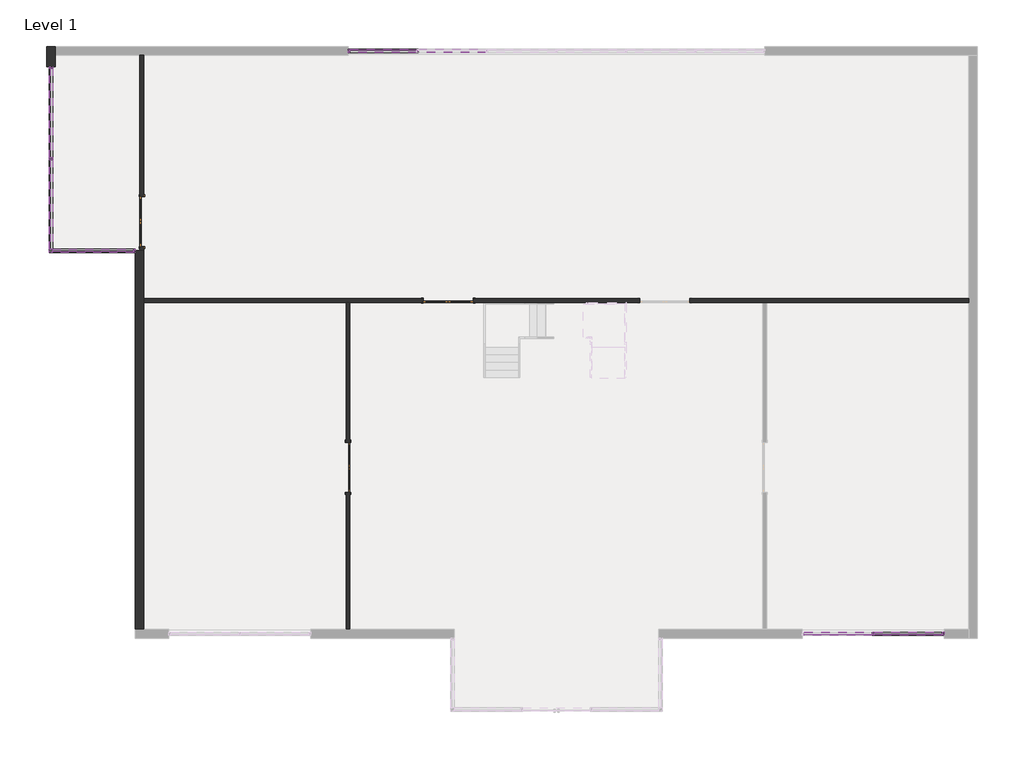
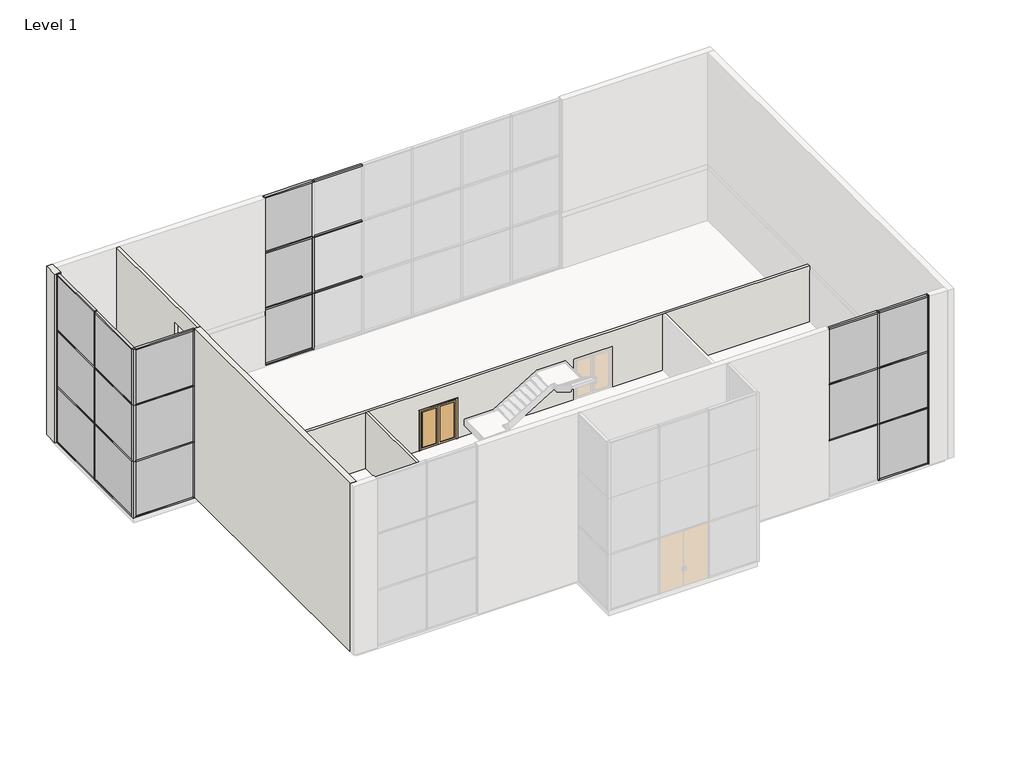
# One storey, part 2 of 3: 49 members, 17 plates, 5 walls, 3 doors.
"""IFC4 building model written with IfcOpenShell, lengths in millimetres."""

from ifc_helpers import new_model, si_unit, frame, origin, place, context, project, spatial, polyline, outline, extrude, faceted_brep, transform, mapped, element, save
from components import door_cb31edf2, door_3f2f997e, member_092dde94, member_3f395ae9, member_65a3e7b2, member_eaba9652, member_4955b6a0, member_9c76a069, member_1f84ea9c, member_b6766b59, member_5ef46571, member_2d82c926, member_728bf22d, member_0c17b8a1, member_268c476f, system_panel_glazed_e83c8d5a, system_panel_glazed_f5e36016, system_panel_glazed_54eba105, system_panel_glazed_2b873caf, system_panel_glazed_c65d631f, system_panel_glazed_26911bd7, system_panel_glazed_bd540f61, system_panel_glazed_3bf1a00e

model = new_model("IFC4")

# Units and contexts
model_context = context("Model", 3, world=origin())
ifc_project = project(units=[si_unit("LENGTHUNIT", "METRE", prefix="MILLI")], contexts=[model_context])

# Site, building, storey
site = spatial("IfcSite", under=ifc_project)
building = spatial("IfcBuilding", under=site)
storey = spatial("IfcBuildingStorey", under=building, Name="Level 1", Elevation=0.0)

# Doors
placement = place(None, origin())
door_shape = door_cb31edf2(model_context)
element("IfcDoor", 1, ObjectType="Door-Double-Glass : 72\" x 84\"", at=placement, inside=storey, context=model_context, shape_type="MappedRepresentation", body=[
    mapped(door_shape, transform((-18248.748632, 9505.1983604, 0.0), x_axis=(0.0, 1.0, 0.0), y_axis=(-1.0, 0.0, 0.0), z_axis=(0.0, 0.0, 1.0))),
])
door_2_shape = door_3f2f997e(model_context)
element("IfcDoor", 2, ObjectType="Door-Double-Glass : 72\" x 84\"", at=placement, inside=storey, context=model_context, shape_type="MappedRepresentation", body=[
    mapped(door_2_shape, transform((-10711.298632, 513.5983604, 0.0), x_axis=(0.0, -1.0, 0.0), y_axis=(1.0, 0.0, 0.0), z_axis=(0.0, 0.0, 1.0))),
])
element("IfcDoor", 3, ObjectType="Door-Double-Glass : 72\" x 84\"", at=placement, inside=storey, context=model_context, shape_type="MappedRepresentation", body=[
    mapped(door_2_shape, transform((-7051.317382, 6611.9796104, 0.0), x_axis=(-1.0, 0.0, 0.0), y_axis=(0.0, -1.0, 0.0), z_axis=(0.0, 0.0, 1.0))),
])

# Members
member_shape = member_092dde94(model_context)
element("IfcMember", 4, ObjectType="Quad Corner Mullion : 5\" x 5\" Quad Corner", at=placement, inside=storey, context=model_context, shape_type="MappedRepresentation", body=[
    mapped(member_shape, transform((-21580.117382, 8438.3983604, 0.0), x_axis=(-1.0, 0.0, 0.0), y_axis=(0.0, 1.0, 0.0), z_axis=(0.0, 0.0, -1.0))),
])
element("IfcMember", 5, ObjectType="Quad Corner Mullion : 5\" x 5\" Quad Corner", at=placement, inside=storey, context=model_context, shape_type="MappedRepresentation", body=[
    mapped(member_shape, transform((-21580.117382, 8438.3983604, 3048.0), x_axis=(-1.0, 0.0, 0.0), y_axis=(0.0, 1.0, 0.0), z_axis=(0.0, 0.0, -1.0))),
])
element("IfcMember", 6, ObjectType="Quad Corner Mullion : 5\" x 5\" Quad Corner", at=placement, inside=storey, context=model_context, shape_type="MappedRepresentation", body=[
    mapped(member_shape, transform((-21580.117382, 8438.3983604, 6096.0), x_axis=(-1.0, 0.0, 0.0), y_axis=(0.0, 1.0, 0.0), z_axis=(0.0, 0.0, -1.0))),
])
member_2_shape = member_3f395ae9(model_context)
element("IfcMember", 7, ObjectType="Rectangular Mullion : 2.5\" x 5\" rectangular", at=placement, inside=storey, context=model_context, shape_type="MappedRepresentation", body=[
    mapped(member_2_shape, transform((-18484.492382, 8438.3983604, 9144.0), x_axis=(1.0, 0.0, 0.0), y_axis=(0.0, 1.0, 0.0), z_axis=(0.0, 0.0, 1.0))),
])
element("IfcMember", 8, ObjectType="Rectangular Mullion : 2.5\" x 5\" rectangular", at=placement, inside=storey, context=model_context, shape_type="MappedRepresentation", body=[
    mapped(member_2_shape, transform((-18484.492382, 8438.3983604, 3048.0), x_axis=(1.0, 0.0, 0.0), y_axis=(0.0, 1.0, 0.0), z_axis=(0.0, 0.0, 1.0))),
])
member_3_shape = member_65a3e7b2(model_context)
element("IfcMember", 9, ObjectType="Rectangular Mullion : 2.5\" x 5\" rectangular", at=placement, inside=storey, context=model_context, shape_type="MappedRepresentation", body=[
    mapped(member_3_shape, transform((-10645.417382, 15753.5983604, 9144.0), x_axis=(0.0, 0.0, 1.0), y_axis=(0.0, 1.0, 0.0), z_axis=(-1.0, 0.0, 0.0))),
])
element("IfcMember", 10, ObjectType="Rectangular Mullion : 2.5\" x 5\" rectangular", at=placement, inside=storey, context=model_context, shape_type="MappedRepresentation", body=[
    mapped(member_3_shape, transform((-8200.6673818, 15753.5983604, 0.0), x_axis=(0.0, 0.0, -1.0), y_axis=(0.0, 1.0, 0.0), z_axis=(1.0, 0.0, 0.0))),
])
member_4_shape = member_eaba9652(model_context)
element("IfcMember", 11, ObjectType="Rectangular Mullion : 2.5\" x 5\" rectangular", at=placement, inside=storey, context=model_context, shape_type="MappedRepresentation", body=[
    mapped(member_4_shape, transform((-8168.9173818, 15753.5983604, 0.0), x_axis=(-1.0, 0.0, 0.0), y_axis=(0.0, 1.0, 0.0), z_axis=(0.0, 0.0, -1.0))),
])
element("IfcMember", 12, ObjectType="Rectangular Mullion : 2.5\" x 5\" rectangular", at=placement, inside=storey, context=model_context, shape_type="MappedRepresentation", body=[
    mapped(member_4_shape, transform((8493.482618, -5582.4016396, 0.0), x_axis=(1.0, 0.0, 0.0), y_axis=(0.0, -1.0, 0.0), z_axis=(0.0, 0.0, -1.0))),
])
element("IfcMember", 13, ObjectType="Rectangular Mullion : 2.5\" x 5\" rectangular", at=placement, inside=storey, context=model_context, shape_type="MappedRepresentation", body=[
    mapped(member_4_shape, transform((-21580.117382, 11807.0733604, 0.0), x_axis=(0.0, -1.0, 0.0), y_axis=(-1.0, 0.0, 0.0), z_axis=(0.0, 0.0, -1.0))),
])
member_5_shape = member_4955b6a0(model_context)
element("IfcMember", 14, ObjectType="Rectangular Mullion : 2.5\" x 5\" rectangular", at=placement, inside=storey, context=model_context, shape_type="MappedRepresentation", body=[
    mapped(member_5_shape, transform((-10645.417382, 15753.5983604, 3048.0), x_axis=(0.0, 0.0, 1.0), y_axis=(0.0, 1.0, 0.0), z_axis=(-1.0, 0.0, 0.0))),
])
element("IfcMember", 15, ObjectType="Rectangular Mullion : 2.5\" x 5\" rectangular", at=placement, inside=storey, context=model_context, shape_type="MappedRepresentation", body=[
    mapped(member_5_shape, transform((-10645.417382, 15753.5983604, 6096.0), x_axis=(0.0, 0.0, 1.0), y_axis=(0.0, 1.0, 0.0), z_axis=(-1.0, 0.0, 0.0))),
])
member_6_shape = member_9c76a069(model_context)
element("IfcMember", 16, ObjectType="Rectangular Mullion : 2.5\" x 5\" rectangular", at=placement, inside=storey, context=model_context, shape_type="MappedRepresentation", body=[
    mapped(member_6_shape, transform((-8137.1673818, 15753.5983604, 3048.0), x_axis=(0.0, 0.0, 1.0), y_axis=(0.0, 1.0, 0.0), z_axis=(-1.0, 0.0, 0.0))),
])
element("IfcMember", 17, ObjectType="Rectangular Mullion : 2.5\" x 5\" rectangular", at=placement, inside=storey, context=model_context, shape_type="MappedRepresentation", body=[
    mapped(member_6_shape, transform((-8137.1673818, 15753.5983604, 6096.0), x_axis=(0.0, 0.0, 1.0), y_axis=(0.0, 1.0, 0.0), z_axis=(-1.0, 0.0, 0.0))),
])
member_7_shape = member_1f84ea9c(model_context)
element("IfcMember", 18, ObjectType="Rectangular Mullion : 2.5\" x 5\" rectangular", at=placement, inside=storey, context=model_context, shape_type="MappedRepresentation", body=[
    mapped(member_7_shape, transform((-8137.1673818, 15753.5983604, 9144.0), x_axis=(0.0, 0.0, 1.0), y_axis=(0.0, 1.0, 0.0), z_axis=(-1.0, 0.0, 0.0))),
])
element("IfcMember", 19, ObjectType="Rectangular Mullion : 2.5\" x 5\" rectangular", at=placement, inside=storey, context=model_context, shape_type="MappedRepresentation", body=[
    mapped(member_4_shape, transform((-8168.9173818, 15753.5983604, 3048.0), x_axis=(-1.0, 0.0, 0.0), y_axis=(0.0, 1.0, 0.0), z_axis=(0.0, 0.0, -1.0))),
])
element("IfcMember", 20, ObjectType="Rectangular Mullion : 2.5\" x 5\" rectangular", at=placement, inside=storey, context=model_context, shape_type="MappedRepresentation", body=[
    mapped(member_4_shape, transform((8493.482618, -5582.4016396, 3048.0), x_axis=(1.0, 0.0, 0.0), y_axis=(0.0, -1.0, 0.0), z_axis=(0.0, 0.0, -1.0))),
])
element("IfcMember", 21, ObjectType="Rectangular Mullion : 2.5\" x 5\" rectangular", at=placement, inside=storey, context=model_context, shape_type="MappedRepresentation", body=[
    mapped(member_4_shape, transform((-21580.117382, 11807.0733604, 3048.0), x_axis=(0.0, -1.0, 0.0), y_axis=(-1.0, 0.0, 0.0), z_axis=(0.0, 0.0, -1.0))),
])
element("IfcMember", 22, ObjectType="Rectangular Mullion : 2.5\" x 5\" rectangular", at=placement, inside=storey, context=model_context, shape_type="MappedRepresentation", body=[
    mapped(member_4_shape, transform((8493.482618, -5582.4016396, 6096.0), x_axis=(1.0, 0.0, 0.0), y_axis=(0.0, -1.0, 0.0), z_axis=(0.0, 0.0, -1.0))),
])
element("IfcMember", 23, ObjectType="Rectangular Mullion : 2.5\" x 5\" rectangular", at=placement, inside=storey, context=model_context, shape_type="MappedRepresentation", body=[
    mapped(member_4_shape, transform((-21580.117382, 11807.0733604, 6096.0), x_axis=(0.0, -1.0, 0.0), y_axis=(-1.0, 0.0, 0.0), z_axis=(0.0, 0.0, -1.0))),
])
element("IfcMember", 24, ObjectType="Rectangular Mullion : 2.5\" x 5\" rectangular", at=placement, inside=storey, context=model_context, shape_type="MappedRepresentation", body=[
    mapped(member_2_shape, transform((-21580.117382, 15175.7483604, 9144.0), x_axis=(0.0, 1.0, 0.0), y_axis=(-1.0, 0.0, 0.0), z_axis=(0.0, 0.0, 1.0))),
])
element("IfcMember", 25, ObjectType="Rectangular Mullion : 2.5\" x 5\" rectangular", at=placement, inside=storey, context=model_context, shape_type="MappedRepresentation", body=[
    mapped(member_2_shape, transform((-10708.917382, 15753.5983604, 0.0), x_axis=(-1.0, 0.0, 0.0), y_axis=(0.0, 1.0, 0.0), z_axis=(0.0, 0.0, -1.0))),
])
element("IfcMember", 26, ObjectType="Rectangular Mullion : 2.5\" x 5\" rectangular", at=placement, inside=storey, context=model_context, shape_type="MappedRepresentation", body=[
    mapped(member_2_shape, transform((11084.282618, -5582.4016396, 0.0), x_axis=(1.0, 0.0, 0.0), y_axis=(0.0, -1.0, 0.0), z_axis=(0.0, 0.0, -1.0))),
])
element("IfcMember", 27, ObjectType="Rectangular Mullion : 2.5\" x 5\" rectangular", at=placement, inside=storey, context=model_context, shape_type="MappedRepresentation", body=[
    mapped(member_2_shape, transform((-10708.917382, 15753.5983604, 3048.0), x_axis=(-1.0, 0.0, 0.0), y_axis=(0.0, 1.0, 0.0), z_axis=(0.0, 0.0, -1.0))),
])
element("IfcMember", 28, ObjectType="Rectangular Mullion : 2.5\" x 5\" rectangular", at=placement, inside=storey, context=model_context, shape_type="MappedRepresentation", body=[
    mapped(member_2_shape, transform((11084.282618, -5582.4016396, 3048.0), x_axis=(1.0, 0.0, 0.0), y_axis=(0.0, -1.0, 0.0), z_axis=(0.0, 0.0, -1.0))),
])
element("IfcMember", 29, ObjectType="Rectangular Mullion : 2.5\" x 5\" rectangular", at=placement, inside=storey, context=model_context, shape_type="MappedRepresentation", body=[
    mapped(member_2_shape, transform((-10708.917382, 15753.5983604, 6096.0), x_axis=(-1.0, 0.0, 0.0), y_axis=(0.0, 1.0, 0.0), z_axis=(0.0, 0.0, -1.0))),
])
element("IfcMember", 30, ObjectType="Rectangular Mullion : 2.5\" x 5\" rectangular", at=placement, inside=storey, context=model_context, shape_type="MappedRepresentation", body=[
    mapped(member_2_shape, transform((11084.282618, -5582.4016396, 6096.0), x_axis=(1.0, 0.0, 0.0), y_axis=(0.0, -1.0, 0.0), z_axis=(0.0, 0.0, -1.0))),
])
element("IfcMember", 31, ObjectType="Rectangular Mullion : 2.5\" x 5\" rectangular", at=placement, inside=storey, context=model_context, shape_type="MappedRepresentation", body=[
    mapped(member_2_shape, transform((-21580.117382, 15175.7483604, 3048.0), x_axis=(0.0, 1.0, 0.0), y_axis=(-1.0, 0.0, 0.0), z_axis=(0.0, 0.0, 1.0))),
])
element("IfcMember", 32, ObjectType="Rectangular Mullion : 2.5\" x 5\" rectangular", at=placement, inside=storey, context=model_context, shape_type="MappedRepresentation", body=[
    mapped(member_2_shape, transform((-21580.117382, 15175.7483604, 6096.0), x_axis=(0.0, 1.0, 0.0), y_axis=(-1.0, 0.0, 0.0), z_axis=(0.0, 0.0, 1.0))),
])
element("IfcMember", 33, ObjectType="Rectangular Mullion : 2.5\" x 5\" rectangular", at=placement, inside=storey, context=model_context, shape_type="MappedRepresentation", body=[
    mapped(member_2_shape, transform((-18484.492382, 8438.3983604, 6096.0), x_axis=(1.0, 0.0, 0.0), y_axis=(0.0, 1.0, 0.0), z_axis=(0.0, 0.0, 1.0))),
])
member_8_shape = member_b6766b59(model_context)
element("IfcMember", 34, ObjectType="Rectangular Mullion : 2.5\" x 5\" rectangular", at=placement, inside=storey, context=model_context, shape_type="MappedRepresentation", body=[
    mapped(member_8_shape, transform((11020.782618, -5582.4016396, 9144.0), x_axis=(0.0, 0.0, 1.0), y_axis=(0.0, -1.0, 0.0), z_axis=(1.0, 0.0, 0.0))),
])
element("IfcMember", 35, ObjectType="Rectangular Mullion : 2.5\" x 5\" rectangular", at=placement, inside=storey, context=model_context, shape_type="MappedRepresentation", body=[
    mapped(member_8_shape, transform((8461.732618, -5582.4016396, 9144.0), x_axis=(0.0, 0.0, 1.0), y_axis=(0.0, -1.0, 0.0), z_axis=(1.0, 0.0, 0.0))),
])
element("IfcMember", 36, ObjectType="Rectangular Mullion : 2.5\" x 5\" rectangular", at=placement, inside=storey, context=model_context, shape_type="MappedRepresentation", body=[
    mapped(member_8_shape, transform((8525.232618, -5582.4016396, 0.0), x_axis=(0.0, 0.0, -1.0), y_axis=(0.0, -1.0, 0.0), z_axis=(-1.0, 0.0, 0.0))),
])
member_9_shape = member_5ef46571(model_context)
element("IfcMember", 37, ObjectType="Rectangular Mullion : 2.5\" x 5\" rectangular", at=placement, inside=storey, context=model_context, shape_type="MappedRepresentation", body=[
    mapped(member_9_shape, transform((8461.732618, -5582.4016396, 3048.0), x_axis=(0.0, 0.0, 1.0), y_axis=(0.0, -1.0, 0.0), z_axis=(1.0, 0.0, 0.0))),
])
element("IfcMember", 38, ObjectType="Rectangular Mullion : 2.5\" x 5\" rectangular", at=placement, inside=storey, context=model_context, shape_type="MappedRepresentation", body=[
    mapped(member_9_shape, transform((11020.782618, -5582.4016396, 3048.0), x_axis=(0.0, 0.0, 1.0), y_axis=(0.0, -1.0, 0.0), z_axis=(1.0, 0.0, 0.0))),
])
element("IfcMember", 39, ObjectType="Rectangular Mullion : 2.5\" x 5\" rectangular", at=placement, inside=storey, context=model_context, shape_type="MappedRepresentation", body=[
    mapped(member_9_shape, transform((8461.732618, -5582.4016396, 6096.0), x_axis=(0.0, 0.0, 1.0), y_axis=(0.0, -1.0, 0.0), z_axis=(1.0, 0.0, 0.0))),
])
element("IfcMember", 40, ObjectType="Rectangular Mullion : 2.5\" x 5\" rectangular", at=placement, inside=storey, context=model_context, shape_type="MappedRepresentation", body=[
    mapped(member_9_shape, transform((11020.782618, -5582.4016396, 6096.0), x_axis=(0.0, 0.0, 1.0), y_axis=(0.0, -1.0, 0.0), z_axis=(1.0, 0.0, 0.0))),
])
member_10_shape = member_2d82c926(model_context)
element("IfcMember", 41, ObjectType="Rectangular Mullion : 2.5\" x 5\" rectangular", at=placement, inside=storey, context=model_context, shape_type="MappedRepresentation", body=[
    mapped(member_10_shape, transform((-21580.117382, 8501.8983604, 9144.0), x_axis=(0.0, 0.0, 1.0), y_axis=(-1.0, 0.0, 0.0), z_axis=(0.0, -1.0, 0.0))),
])
element("IfcMember", 42, ObjectType="Rectangular Mullion : 2.5\" x 5\" rectangular", at=placement, inside=storey, context=model_context, shape_type="MappedRepresentation", body=[
    mapped(member_10_shape, transform((-21580.117382, 11838.8233604, 9144.0), x_axis=(0.0, 0.0, 1.0), y_axis=(-1.0, 0.0, 0.0), z_axis=(0.0, -1.0, 0.0))),
])
element("IfcMember", 43, ObjectType="Rectangular Mullion : 2.5\" x 5\" rectangular", at=placement, inside=storey, context=model_context, shape_type="MappedRepresentation", body=[
    mapped(member_10_shape, transform((-21580.117382, 15112.2483604, 0.0), x_axis=(0.0, 0.0, -1.0), y_axis=(-1.0, 0.0, 0.0), z_axis=(0.0, 1.0, 0.0))),
])
element("IfcMember", 44, ObjectType="Rectangular Mullion : 2.5\" x 5\" rectangular", at=placement, inside=storey, context=model_context, shape_type="MappedRepresentation", body=[
    mapped(member_10_shape, transform((-21580.117382, 11775.3233604, 0.0), x_axis=(0.0, 0.0, -1.0), y_axis=(-1.0, 0.0, 0.0), z_axis=(0.0, 1.0, 0.0))),
])
member_11_shape = member_728bf22d(model_context)
element("IfcMember", 45, ObjectType="Rectangular Mullion : 2.5\" x 5\" rectangular", at=placement, inside=storey, context=model_context, shape_type="MappedRepresentation", body=[
    mapped(member_11_shape, transform((-21580.117382, 11838.8233604, 3048.0), x_axis=(0.0, 0.0, 1.0), y_axis=(-1.0, 0.0, 0.0), z_axis=(0.0, -1.0, 0.0))),
])
element("IfcMember", 46, ObjectType="Rectangular Mullion : 2.5\" x 5\" rectangular", at=placement, inside=storey, context=model_context, shape_type="MappedRepresentation", body=[
    mapped(member_11_shape, transform((-21580.117382, 8501.8983604, 3048.0), x_axis=(0.0, 0.0, 1.0), y_axis=(-1.0, 0.0, 0.0), z_axis=(0.0, -1.0, 0.0))),
])
element("IfcMember", 47, ObjectType="Rectangular Mullion : 2.5\" x 5\" rectangular", at=placement, inside=storey, context=model_context, shape_type="MappedRepresentation", body=[
    mapped(member_11_shape, transform((-21580.117382, 11838.8233604, 6096.0), x_axis=(0.0, 0.0, 1.0), y_axis=(-1.0, 0.0, 0.0), z_axis=(0.0, -1.0, 0.0))),
])
element("IfcMember", 48, ObjectType="Rectangular Mullion : 2.5\" x 5\" rectangular", at=placement, inside=storey, context=model_context, shape_type="MappedRepresentation", body=[
    mapped(member_11_shape, transform((-21580.117382, 8501.8983604, 6096.0), x_axis=(0.0, 0.0, 1.0), y_axis=(-1.0, 0.0, 0.0), z_axis=(0.0, -1.0, 0.0))),
])
member_12_shape = member_0c17b8a1(model_context)
element("IfcMember", 49, ObjectType="Rectangular Mullion : 2.5\" x 5\" rectangular", at=placement, inside=storey, context=model_context, shape_type="MappedRepresentation", body=[
    mapped(member_12_shape, transform((-21516.617382, 8438.3983604, 9144.0), x_axis=(0.0, 0.0, 1.0), y_axis=(0.0, 1.0, 0.0), z_axis=(-1.0, 0.0, 0.0))),
])
element("IfcMember", 50, ObjectType="Rectangular Mullion : 2.5\" x 5\" rectangular", at=placement, inside=storey, context=model_context, shape_type="MappedRepresentation", body=[
    mapped(member_12_shape, transform((-18547.992382, 8438.3983604, 0.0), x_axis=(0.0, 0.0, -1.0), y_axis=(0.0, 1.0, 0.0), z_axis=(1.0, 0.0, 0.0))),
])
member_13_shape = member_268c476f(model_context)
element("IfcMember", 51, ObjectType="Rectangular Mullion : 2.5\" x 5\" rectangular", at=placement, inside=storey, context=model_context, shape_type="MappedRepresentation", body=[
    mapped(member_13_shape, transform((-21516.617382, 8438.3983604, 3048.0), x_axis=(0.0, 0.0, 1.0), y_axis=(0.0, 1.0, 0.0), z_axis=(-1.0, 0.0, 0.0))),
])
element("IfcMember", 52, ObjectType="Rectangular Mullion : 2.5\" x 5\" rectangular", at=placement, inside=storey, context=model_context, shape_type="MappedRepresentation", body=[
    mapped(member_13_shape, transform((-21516.617382, 8438.3983604, 6096.0), x_axis=(0.0, 0.0, 1.0), y_axis=(0.0, 1.0, 0.0), z_axis=(-1.0, 0.0, 0.0))),
])

# Plates
system_panel_glazed_shape = system_panel_glazed_e83c8d5a(model_context)
element("IfcPlate", 53, ObjectType="System Panel : Glazed", at=placement, inside=storey, context=model_context, shape_type="MappedRepresentation", body=[
    mapped(system_panel_glazed_shape, transform((-9423.0423819, 15753.5983604, 63.5), x_axis=(-1.0, 0.0, 0.0), y_axis=(0.0, -1.0, 0.0), z_axis=(0.0, 0.0, 1.0))),
])
element("IfcPlate", 54, ObjectType="System Panel : Glazed", at=placement, inside=storey, context=model_context, shape_type="MappedRepresentation", body=[
    mapped(system_panel_glazed_shape, transform((-9423.0423819, 15753.5983604, 6127.75), x_axis=(-1.0, 0.0, 0.0), y_axis=(0.0, -1.0, 0.0), z_axis=(0.0, 0.0, 1.0))),
])
system_panel_glazed_2_shape = system_panel_glazed_f5e36016(model_context)
element("IfcPlate", 55, ObjectType="System Panel : Glazed", at=placement, inside=storey, context=model_context, shape_type="MappedRepresentation", body=[
    mapped(system_panel_glazed_2_shape, transform((-9423.0423819, 15753.5983604, 3079.75), x_axis=(-1.0, 0.0, 0.0), y_axis=(0.0, -1.0, 0.0), z_axis=(0.0, 0.0, 1.0))),
])
system_panel_glazed_3_shape = system_panel_glazed_54eba105(model_context)
element("IfcPlate", 56, ObjectType="System Panel : Glazed", at=placement, inside=storey, context=model_context, shape_type="MappedRepresentation", body=[
    mapped(system_panel_glazed_3_shape, transform((9773.007618, -5582.4016396, 63.5), x_axis=(1.0, 0.0, 0.0), y_axis=(0.0, 1.0, 0.0), z_axis=(0.0, 0.0, 1.0))),
])
element("IfcPlate", 57, ObjectType="System Panel : Glazed", at=placement, inside=storey, context=model_context, shape_type="MappedRepresentation", body=[
    mapped(system_panel_glazed_3_shape, transform((7213.957618, -5582.4016396, 6127.75), x_axis=(1.0, 0.0, 0.0), y_axis=(0.0, 1.0, 0.0), z_axis=(0.0, 0.0, 1.0))),
])
element("IfcPlate", 58, ObjectType="System Panel : Glazed", at=placement, inside=storey, context=model_context, shape_type="MappedRepresentation", body=[
    mapped(system_panel_glazed_3_shape, transform((9773.007618, -5582.4016396, 6127.75), x_axis=(1.0, 0.0, 0.0), y_axis=(0.0, 1.0, 0.0), z_axis=(0.0, 0.0, 1.0))),
])
system_panel_glazed_4_shape = system_panel_glazed_2b873caf(model_context)
element("IfcPlate", 59, ObjectType="System Panel : Glazed", at=placement, inside=storey, context=model_context, shape_type="MappedRepresentation", body=[
    mapped(system_panel_glazed_4_shape, transform((7213.957618, -5582.4016396, 3079.75), x_axis=(1.0, 0.0, 0.0), y_axis=(0.0, 1.0, 0.0), z_axis=(0.0, 0.0, 1.0))),
])
element("IfcPlate", 60, ObjectType="System Panel : Glazed", at=placement, inside=storey, context=model_context, shape_type="MappedRepresentation", body=[
    mapped(system_panel_glazed_4_shape, transform((9773.007618, -5582.4016396, 3079.75), x_axis=(1.0, 0.0, 0.0), y_axis=(0.0, 1.0, 0.0), z_axis=(0.0, 0.0, 1.0))),
])
system_panel_glazed_5_shape = system_panel_glazed_c65d631f(model_context)
element("IfcPlate", 61, ObjectType="System Panel : Glazed", at=placement, inside=storey, context=model_context, shape_type="MappedRepresentation", body=[
    mapped(system_panel_glazed_5_shape, transform((-21580.117382, 13475.5358604, 63.5), x_axis=(0.0, -1.0, 0.0), y_axis=(1.0, 0.0, 0.0), z_axis=(0.0, 0.0, 1.0))),
])
element("IfcPlate", 62, ObjectType="System Panel : Glazed", at=placement, inside=storey, context=model_context, shape_type="MappedRepresentation", body=[
    mapped(system_panel_glazed_5_shape, transform((-21580.117382, 13475.5358604, 6127.75), x_axis=(0.0, -1.0, 0.0), y_axis=(1.0, 0.0, 0.0), z_axis=(0.0, 0.0, 1.0))),
])
element("IfcPlate", 63, ObjectType="System Panel : Glazed", at=placement, inside=storey, context=model_context, shape_type="MappedRepresentation", body=[
    mapped(system_panel_glazed_5_shape, transform((-21580.117382, 10138.6108604, 63.5), x_axis=(0.0, -1.0, 0.0), y_axis=(1.0, 0.0, 0.0), z_axis=(0.0, 0.0, 1.0))),
])
element("IfcPlate", 64, ObjectType="System Panel : Glazed", at=placement, inside=storey, context=model_context, shape_type="MappedRepresentation", body=[
    mapped(system_panel_glazed_5_shape, transform((-21580.117382, 10138.6108604, 6127.75), x_axis=(0.0, -1.0, 0.0), y_axis=(1.0, 0.0, 0.0), z_axis=(0.0, 0.0, 1.0))),
])
system_panel_glazed_6_shape = system_panel_glazed_26911bd7(model_context)
element("IfcPlate", 65, ObjectType="System Panel : Glazed", at=placement, inside=storey, context=model_context, shape_type="MappedRepresentation", body=[
    mapped(system_panel_glazed_6_shape, transform((-21580.117382, 13475.5358604, 3079.75), x_axis=(0.0, -1.0, 0.0), y_axis=(1.0, 0.0, 0.0), z_axis=(0.0, 0.0, 1.0))),
])
element("IfcPlate", 66, ObjectType="System Panel : Glazed", at=placement, inside=storey, context=model_context, shape_type="MappedRepresentation", body=[
    mapped(system_panel_glazed_6_shape, transform((-21580.117382, 10138.6108604, 3079.75), x_axis=(0.0, -1.0, 0.0), y_axis=(1.0, 0.0, 0.0), z_axis=(0.0, 0.0, 1.0))),
])
system_panel_glazed_7_shape = system_panel_glazed_bd540f61(model_context)
element("IfcPlate", 67, ObjectType="System Panel : Glazed", at=placement, inside=storey, context=model_context, shape_type="MappedRepresentation", body=[
    mapped(system_panel_glazed_7_shape, transform((-20032.304882, 8438.3983604, 63.5), x_axis=(-1.0, 0.0, 0.0), y_axis=(0.0, -1.0, 0.0), z_axis=(0.0, 0.0, 1.0))),
])
element("IfcPlate", 68, ObjectType="System Panel : Glazed", at=placement, inside=storey, context=model_context, shape_type="MappedRepresentation", body=[
    mapped(system_panel_glazed_7_shape, transform((-20032.304882, 8438.3983604, 6127.75), x_axis=(-1.0, 0.0, 0.0), y_axis=(0.0, -1.0, 0.0), z_axis=(0.0, 0.0, 1.0))),
])
system_panel_glazed_8_shape = system_panel_glazed_3bf1a00e(model_context)
element("IfcPlate", 69, ObjectType="System Panel : Glazed", at=placement, inside=storey, context=model_context, shape_type="MappedRepresentation", body=[
    mapped(system_panel_glazed_8_shape, transform((-20032.304882, 8438.3983604, 3079.75), x_axis=(-1.0, 0.0, 0.0), y_axis=(0.0, -1.0, 0.0), z_axis=(0.0, 0.0, 1.0))),
])

# Walls
element("IfcWall", 70, ObjectType="Exterior - EIFS on Mtl. Stud", at=placement, inside=storey, context=model_context, shape_type="Brep", body=[
    faceted_brep([(-18173.342382, -5426.8266396, 0.0), (-18173.342382, 6539.7483604, 0.0), (-18173.342382, 6679.4483604, 0.0), (-18173.342382, 8438.3983604, 0.0), (-18173.342382, 8438.3983604, 2774.95), (-18173.342382, -5426.8266396, 2774.95), (-18173.342382, 8438.3983604, 9144.0), (-18173.342382, 6679.4483604, 9144.0), (-18173.342382, 6539.7483604, 9144.0), (-18173.342382, -5426.8266396, 9144.0), (-18173.342382, -5426.8266396, 3048.0), (-18173.342382, 6539.7483604, 3048.0), (-18173.342382, 6679.4483604, 3048.0), (-18173.342382, 8438.3983604, 3048.0), (-18484.492382, 8438.3983604, 0.0), (-18484.492382, -5426.8266396, 0.0), (-18484.492382, -5426.8266396, 9144.0), (-18484.492382, 8438.3983604, 9144.0), (-18484.492382, 8438.3983604, 3048.0), (-18484.492382, 8438.3983604, 2774.95), (-18328.917382, 8438.3983604, 0.0), (-18328.917382, 8438.3983604, 9144.0), (-18186.042382, 8438.3983604, 3048.0), (-18186.042382, 8438.3983604, 2774.95), (-18186.042382, -5426.8266396, 2774.95), (-18186.042382, -5426.8266396, 3048.0)], [[[0, 1, 2, 3, 4, 5]], [[6, 7, 8, 9, 10, 11, 12, 13]], [[14, 15, 16, 17, 18, 19]], [[3, 2, 1, 0, 15, 14, 20]], [[3, 20, 14, 19, 18, 17, 21, 6, 13, 22, 23, 4]], [[9, 8, 7, 6, 21, 17, 16]], [[9, 16, 15, 0, 5, 24, 25, 10]], [[23, 24, 5, 4]], [[25, 22, 13, 12, 11, 10]], [[24, 23, 22, 25]]]),
])
element("IfcWall", 71, ObjectType="Exterior - EIFS on Mtl. Stud", at=placement, inside=storey, context=model_context, shape_type="Brep", body=[
    faceted_brep([(-21735.692382, 15909.1733604, 0.0), (-21735.692382, 15175.7483604, 0.0), (-21735.692382, 15175.7483604, 9144.0), (-21735.692382, 15909.1733604, 9144.0), (-21424.542382, 15909.1733604, 0.0), (-21424.542382, 15909.1733604, 9144.0), (-21424.542382, 15598.0233604, 9144.0), (-21424.542382, 15175.7483604, 9144.0), (-21424.542382, 15175.7483604, 0.0), (-21424.542382, 15598.0233604, 0.0)], [[[0, 1, 2, 3]], [[4, 5, 6, 7, 8, 9]], [[1, 0, 4, 9, 8]], [[2, 1, 8, 7]], [[3, 2, 7, 6, 5]], [[0, 3, 5, 4]]]),
])
element("IfcWall", 72, ObjectType="Interior - 5 1/2\" Partition (1-hr)", at=placement, inside=storey, context=model_context, shape_type="Brep", body=[
    faceted_brep([(-6136.917382, 6539.7483604, 0.0), (-40.917382, 6539.7483604, 0.0), (-40.917382, 6539.7483604, 2133.6), (1787.882618, 6539.7483604, 2133.6), (1787.882618, 6539.7483604, 0.0), (4461.232618, 6539.7483604, 0.0), (4600.932618, 6539.7483604, 0.0), (11995.507618, 6539.7483604, 0.0), (11995.507618, 6539.7483604, 3048.0), (4600.932618, 6539.7483604, 3048.0), (4461.232618, 6539.7483604, 3048.0), (1787.882618, 6539.7483604, 3048.0), (-40.917382, 6539.7483604, 3048.0), (-6136.917382, 6539.7483604, 3048.0), (-7965.717382, 6539.7483604, 3048.0), (-10639.067382, 6539.7483604, 3048.0), (-10778.767382, 6539.7483604, 3048.0), (-18173.342382, 6539.7483604, 3048.0), (-18173.342382, 6539.7483604, 0.0), (-10778.767382, 6539.7483604, 0.0), (-10639.067382, 6539.7483604, 0.0), (-7965.717382, 6539.7483604, 0.0), (-7965.717382, 6539.7483604, 2133.6), (-6136.917382, 6539.7483604, 2133.6), (-40.917382, 6679.4483604, 2133.6), (-40.917382, 6679.4483604, 0.0), (-6136.917382, 6679.4483604, 0.0), (-6136.917382, 6679.4483604, 2133.6), (-7965.717382, 6679.4483604, 2133.6), (-7965.717382, 6679.4483604, 0.0), (-18173.342382, 6679.4483604, 0.0), (-18173.342382, 6679.4483604, 3048.0), (-7965.717382, 6679.4483604, 3048.0), (-6136.917382, 6679.4483604, 3048.0), (-40.917382, 6679.4483604, 3048.0), (1787.882618, 6679.4483604, 3048.0), (11995.507618, 6679.4483604, 3048.0), (11995.507618, 6679.4483604, 0.0), (1787.882618, 6679.4483604, 0.0), (1787.882618, 6679.4483604, 2133.6)], [[[0, 1, 2, 3, 4, 5, 6, 7, 8, 9, 10, 11, 12, 13, 14, 15, 16, 17, 18, 19, 20, 21, 22, 23]], [[24, 25, 26, 27, 28, 29, 30, 31, 32, 33, 34, 35, 36, 37, 38, 39]], [[30, 29, 21, 20, 19, 18]], [[38, 37, 7, 6, 5, 4]], [[26, 25, 1, 0]], [[17, 16, 15, 14, 13, 12, 11, 10, 9, 8, 36, 35, 34, 33, 32, 31]], [[8, 7, 37, 36]], [[18, 17, 31, 30]], [[22, 21, 29, 28]], [[23, 22, 28, 27]], [[0, 23, 27, 26]], [[2, 1, 25, 24]], [[3, 2, 24, 39]], [[4, 3, 39, 38]]]),
])
element("IfcWall", 73, ObjectType="Interior - 5 1/2\" Partition (1-hr)", at=placement, inside=storey, context=model_context, shape_type="Brep", body=[
    faceted_brep([(-10778.767382, -400.8016396, 2133.6), (-10778.767382, -400.8016396, 0.0), (-10778.767382, -5426.8266396, 0.0), (-10778.767382, -5426.8266396, 3048.0), (-10778.767382, -400.8016396, 3048.0), (-10778.767382, 1427.9983604, 3048.0), (-10778.767382, 6539.7483604, 3048.0), (-10778.767382, 6539.7483604, 0.0), (-10778.767382, 1427.9983604, 0.0), (-10778.767382, 1427.9983604, 2133.6), (-10639.067382, -5426.8266396, 0.0), (-10639.067382, -400.8016396, 0.0), (-10639.067382, -400.8016396, 2133.6), (-10639.067382, 1427.9983604, 2133.6), (-10639.067382, 1427.9983604, 0.0), (-10639.067382, 6539.7483604, 0.0), (-10639.067382, 6539.7483604, 3048.0), (-10639.067382, 1427.9983604, 3048.0), (-10639.067382, -400.8016396, 3048.0), (-10639.067382, -5426.8266396, 3048.0)], [[[0, 1, 2, 3, 4, 5, 6, 7, 8, 9]], [[10, 11, 12, 13, 14, 15, 16, 17, 18, 19]], [[8, 7, 15, 14]], [[2, 1, 11, 10]], [[6, 5, 4, 3, 19, 18, 17, 16]], [[3, 2, 10, 19]], [[7, 6, 16, 15]], [[12, 11, 1, 0]], [[13, 12, 0, 9]], [[14, 13, 9, 8]]]),
])
element("IfcWall", 74, ObjectType="Interior - 6 1/8\" Partition (2-hr)", at=placement, inside=storey, context=model_context, shape_type="SweptSolid", body=[
    extrude(outline(polyline([(15598.0233604, 0.0), (10419.5983604, 0.0), (10419.5983604, 2133.6), (8590.7983604, 2133.6), (8590.7983604, 0.0), (8438.3983604, 0.0), (8438.3983604, 9144.0), (15598.0233604, 9144.0), (15598.0233604, 0.0)]), holes=[polyline([(8590.7983604, 3048.0), (10419.5983604, 3048.0), (10419.5983604, 5181.6), (8590.7983604, 5181.6), (8590.7983604, 3048.0)]), polyline([(8590.7983604, 6096.0), (10419.5983604, 6096.0), (10419.5983604, 8229.6), (8590.7983604, 8229.6), (8590.7983604, 6096.0)])]), frame((-18328.917382, 0.0, 0.0), z_axis=(1.0, 0.0, 0.0), x_axis=(0.0, 1.0, 0.0)), (0.0, 0.0, 1.0), 155.575),
])

save(model, "model.ifc")
